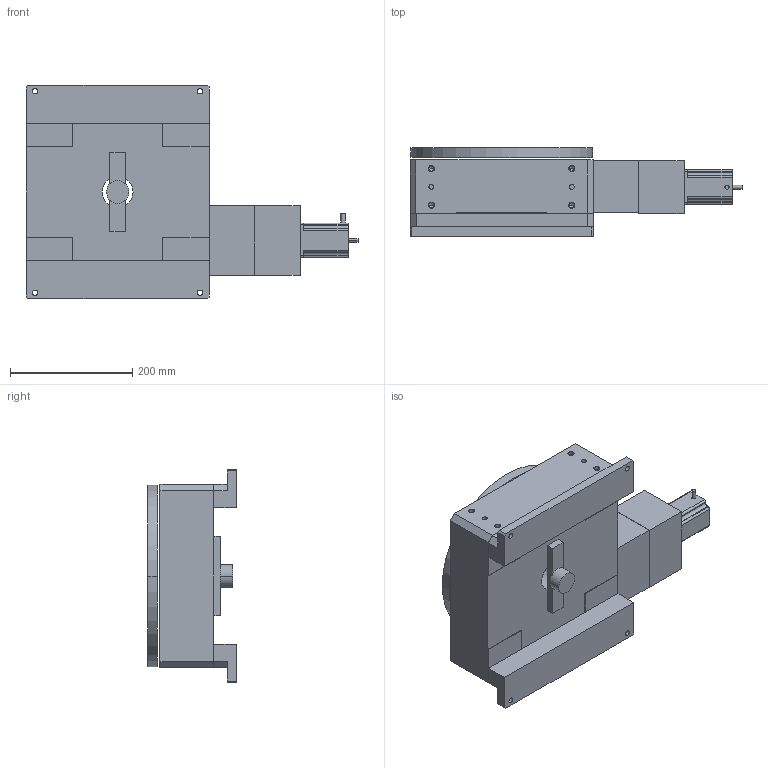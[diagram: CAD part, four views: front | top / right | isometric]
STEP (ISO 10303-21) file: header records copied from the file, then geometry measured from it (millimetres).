
FILE_DESCRIPTION((''),'2;1');
FILE_NAME('R300M9MP3E1_ASM','2009-07-02T',('FK20128'),(''),'PRO/ENGINEER BY PARAMETRIC TECHNOLOGY CORPORATION, 2006200','PRO/ENGINEER BY PARAMETRIC TECHNOLOGY CORPORATION, 2006200','');
FILE_SCHEMA(('CONFIG_CONTROL_DESIGN'));
Length unit declared in the file: millimetre
Products named in the file (8): R300M; R300M-M22; RXXXM-HV233; R300M-ENCODER-BRKT; R300M-ENCODER-STANDOFF; RXXXM-ENCODER; R300M-E1_ASM; R300M9MP3E1_ASM
Assembly tree (8 placements, depth 3):
  R300M9MP3E1_ASM
    R300M
    R300M-M22
    RXXXM-HV233
    R300M-E1_ASM
      R300M-ENCODER-BRKT
      R300M-ENCODER-STANDOFF  x2
      RXXXM-ENCODER
Bounding box: 543.64 x 145.13 x 350 mm (x, y, z)
Volume: 11383641.7 mm3; surface area: 731999.2 mm2
Topology: 8 solids, 30 shells, 341 faces, 850 edges, 564 vertices
Faces by surface type: cylinder 184, plane 135, cone 22
Entity records: 9667 total; most frequent: DIRECTION 1826, CARTESIAN_POINT 1615, ORIENTED_EDGE 1440, EDGE_CURVE 760, AXIS2_PLACEMENT_3D 727, VERTEX_POINT 516, EDGE_LOOP 412, CIRCLE 388
